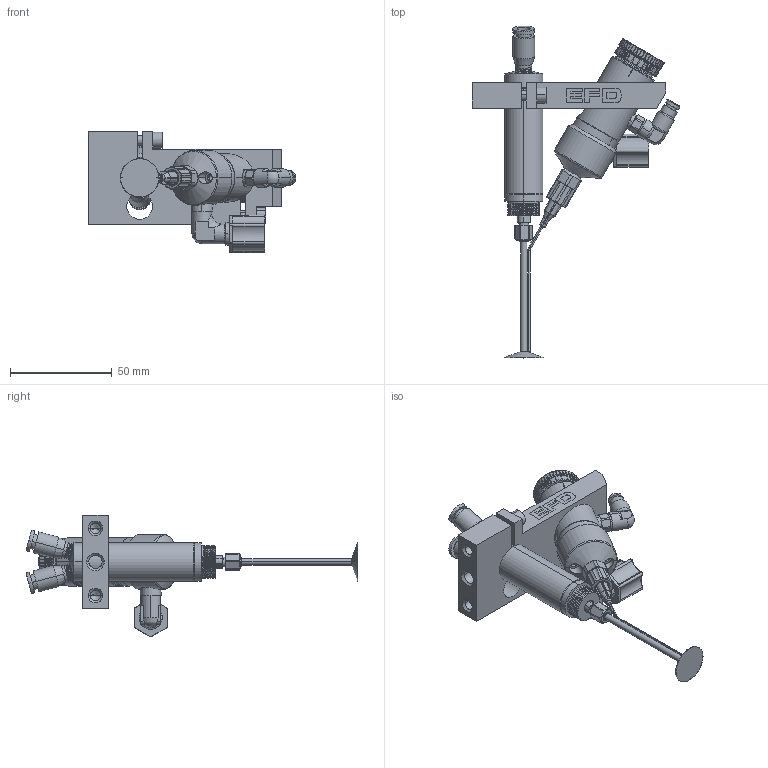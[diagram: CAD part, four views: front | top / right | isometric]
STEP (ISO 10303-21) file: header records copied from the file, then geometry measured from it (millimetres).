
FILE_DESCRIPTION (( 'STEP AP214' ), '1' );
FILE_NAME ('NORDSONEFD-19mm Spinner 18GA Tip.STEP', '2019-04-15T04:04:07', ( '' ), ( '' ), 'SwSTEP 2.0', 'SolidWorks 2019', '' );
FILE_SCHEMA (( 'AUTOMOTIVE_DESIGN' ));
Length unit declared in the file: inch
Products named in the file (10): NORDSONEFD-19mm Spinner 18GA Tip_7021840 19MM 748 SPINNER; NORDSONEFD-19mm Spinner 18GA Tip_7021845 18GA TIP W 30 DEGREE BEND; NORDSONEFD-19mm Spinner 18GA Tip_7021851 R SPINNER MOUNTING BRACKET; NORDSONEFD-19mm Spinner 18GA Tip; NORDSONEFD-19mm Spinner 18GA Tip_7021448 ROTATING LL TIP ADAPTER 752V; NORDSONEFD-19mm Spinner 18GA Tip_7021410 DIAPHRAGM VALVE ACETAL HEAD; NORDSONEFD-19mm Spinner 18GA Tip_7021499 FIT1 8MPT-1 4COMP ELB BLK PP; NORDSONEFD-19mm Spinner 18GA Tip_752V DIAPHRAGM VALVE; NORDSONEFD-19mm Spinner 18GA Tip_7021796 AIR MOTOR - COLLETED; NORDSONEFD-19mm Spinner 18GA Tip_7021713 PUSH IN FIT 10 32X5 32 ELB NP
Assembly tree (9 placements, depth 3):
  NORDSONEFD-19mm Spinner 18GA Tip
    NORDSONEFD-19mm Spinner 18GA Tip_7021851 R SPINNER MOUNTING BRACKET
    NORDSONEFD-19mm Spinner 18GA Tip_7021796 AIR MOTOR - COLLETED
    NORDSONEFD-19mm Spinner 18GA Tip_7021410 DIAPHRAGM VALVE ACETAL HEAD
      NORDSONEFD-19mm Spinner 18GA Tip_752V DIAPHRAGM VALVE
      NORDSONEFD-19mm Spinner 18GA Tip_7021499 FIT1 8MPT-1 4COMP ELB BLK PP
      NORDSONEFD-19mm Spinner 18GA Tip_7021713 PUSH IN FIT 10 32X5 32 ELB NP
    NORDSONEFD-19mm Spinner 18GA Tip_7021448 ROTATING LL TIP ADAPTER 752V
    NORDSONEFD-19mm Spinner 18GA Tip_7021840 19MM 748 SPINNER
    NORDSONEFD-19mm Spinner 18GA Tip_7021845 18GA TIP W 30 DEGREE BEND
Bounding box: 102.14 x 163.03 x 59.59 mm (x, y, z)
Volume: 92712.2 mm3; surface area: 38685.8 mm2
Topology: 8 solids, 8 shells, 2073 faces, 5408 edges, 3478 vertices
Faces by surface type: plane 787, bspline 518, cylinder 452, cone 248, torus 68
Entity records: 121749 total; most frequent: CARTESIAN_POINT 68295, ORIENTED_EDGE 10758, DIRECTION 7774, EDGE_CURVE 5379, VERTEX_POINT 3478, AXIS2_PLACEMENT_3D 3001, EDGE_LOOP 2251, ADVANCED_FACE 2073
